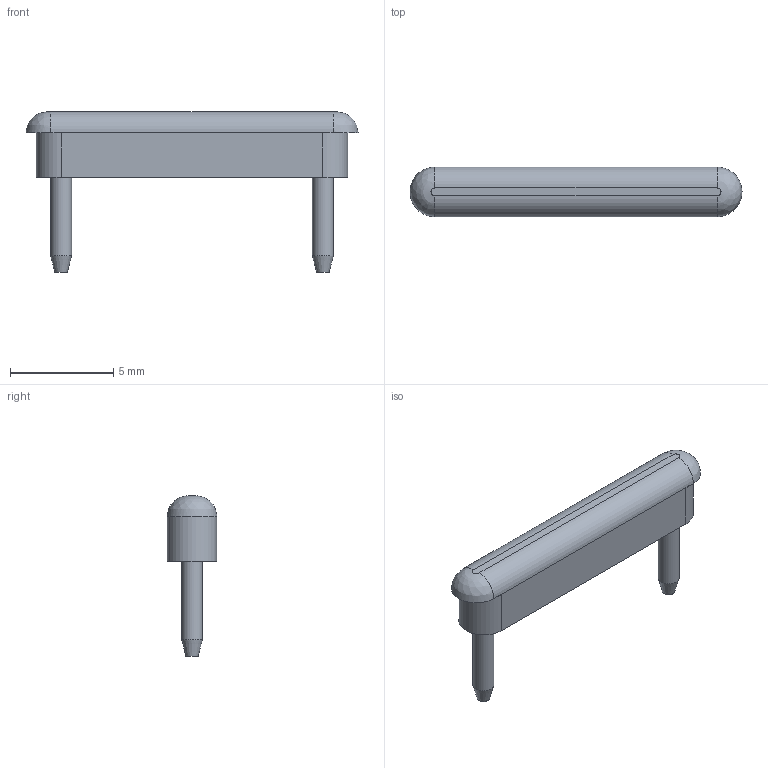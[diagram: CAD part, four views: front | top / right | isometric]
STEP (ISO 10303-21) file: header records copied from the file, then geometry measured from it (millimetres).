
FILE_DESCRIPTION(/* description */ (''),/* implementation_level */ '2;1');
FILE_NAME(/* name */ '\\Snap1\dwgs\Customer 3D Models\461\461-2872-05 Customer model.stp',/* time_stamp */ '2016-12-21T14:29:04+00:00',/* author */ ('paulk'),/* organization */ (''),/* preprocessor_version */ 'ST-DEVELOPER v15.2',/* originating_system */ 'Autodesk Inventor 2014',/* authorisation */ '');
FILE_SCHEMA (('CONFIG_CONTROL_DESIGN'));
Length unit declared in the file: millimetre
Products named in the file (1): 461-2872-05 Customer model
Bounding box: 16.1 x 2.41 x 7.77 mm (x, y, z)
Volume: 113.7 mm3; surface area: 193.5 mm2
Topology: 1 solids, 1 shells, 18 faces, 36 edges, 22 vertices
Faces by surface type: plane 8, cylinder 6, cone 2, bspline 2
Full cylindrical faces by diameter (mm): 1.016 x2
Entity records: 523 total; most frequent: CARTESIAN_POINT 101, DIRECTION 84, ORIENTED_EDGE 64, AXIS2_PLACEMENT_3D 35, EDGE_CURVE 32, EDGE_LOOP 24, VERTEX_POINT 22, STYLED_ITEM 19
